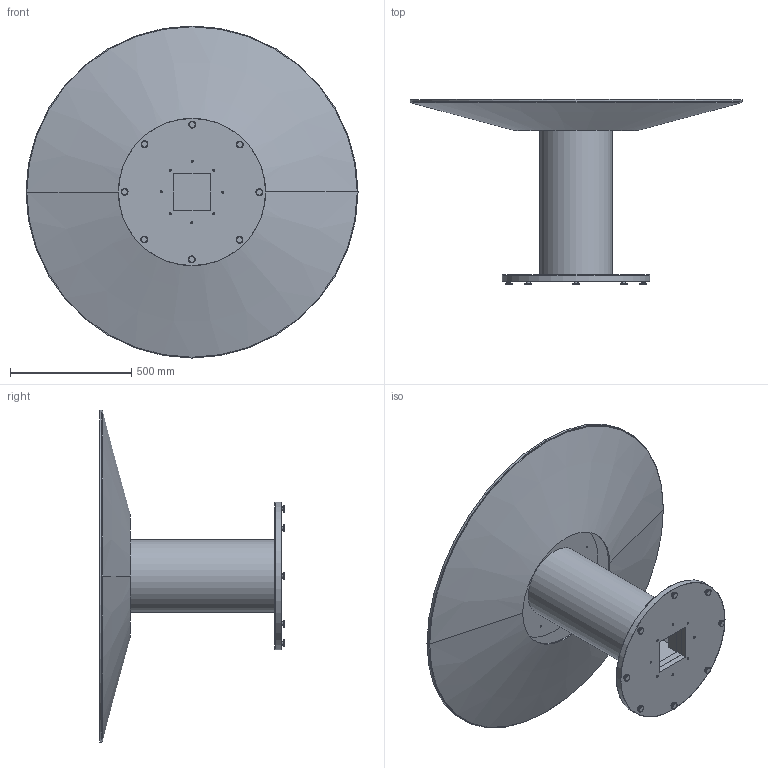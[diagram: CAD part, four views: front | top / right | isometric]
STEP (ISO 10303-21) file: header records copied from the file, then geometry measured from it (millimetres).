
FILE_DESCRIPTION(/* description */ ('','CAx-IF Rec.Pracs.---Representation and Presentation of Product Manufacturing Information (PMI)---4.0---2014-10-13'),/* implementation_level */ '2;1');
FILE_NAME(/* name */ 'AERO^TA1.stp',/* time_stamp */ '2024-12-05T17:11:36-05:00',/* author */ ('mbowman'),/* organization */ ('WESTERN OFFICE INTERIORS'),/* preprocessor_version */ 'ST-DEVELOPER v19.2',/* originating_system */ 'Autodesk Inventor 2023',/* authorisation */ '');
FILE_SCHEMA (('AP242_MANAGED_MODEL_BASED_3D_ENGINEERING_MIM_LF { 1 0 10303 442 1 1 4 }'));
Length unit declared in the file: inch
Products named in the file (17): AERO^TABLE 1_ATR-5454^2940801; AERO^TABLE 1_ATR-6060^TOP PNL06; AERO^TABLE 1_APRON04; AERO^TABLE 1_ATR1-4807; AERO^TABLE 1_ATR1-48^BASE TUBE12; AERO^TABLE 1_ATR1-48^FOOT PNL15; T-NUT 1-4 (MM322); H-COD-GLIDE2; AERO^TABLE 1_ATR1-48^BASE TOP BTM11; AERO^TABLE 1_ATR1-28^BASE STEEL SHROUD21; AERO^TABLE 1_AT0D-12^SUBTOP PNL19; AERO^TABLE 1_AT0D-12^INNER SIDE PNL18; AERO^TABLE 1_AT0D-12^INNER BACK PNL16; AERO^TABLE 1_AT0D-12^INNER FRNT PNL17; AERO^TABLE 1_AT0D-12^TOP DOOR BLOCK20; AERO^TABLE 1_AT0D-12^BTM DOOR BLOCK13; AERO^TABLE 1_AT0D-12^1 X 1 CLEAT BLK10
Assembly tree (40 placements, depth 3):
  AERO^TABLE 1_ATR-5454^2940801
    AERO^TABLE 1_ATR-6060^TOP PNL06
    AERO^TABLE 1_APRON04  x2
    AERO^TABLE 1_ATR1-4807
      AERO^TABLE 1_ATR1-48^BASE TUBE12
      AERO^TABLE 1_ATR1-48^FOOT PNL15
      T-NUT 1-4 (MM322)  x8
      H-COD-GLIDE2  x8
      AERO^TABLE 1_ATR1-48^BASE TOP BTM11  x2
      AERO^TABLE 1_ATR1-28^BASE STEEL SHROUD21
      AERO^TABLE 1_AT0D-12^SUBTOP PNL19
      AERO^TABLE 1_AT0D-12^INNER SIDE PNL18  x2
      AERO^TABLE 1_AT0D-12^INNER BACK PNL16
      AERO^TABLE 1_AT0D-12^INNER FRNT PNL17
      AERO^TABLE 1_AT0D-12^TOP DOOR BLOCK20  x2
      AERO^TABLE 1_AT0D-12^BTM DOOR BLOCK13  x2
      AERO^TABLE 1_AT0D-12^1 X 1 CLEAT BLK10  x6
Bounding box: 1371.6 x 763.81 x 1371.6 mm (x, y, z)
Volume: 76335050.1 mm3; surface area: 9833284.5 mm2
Topology: 40 solids, 40 shells, 324 faces, 637 edges, 419 vertices
Faces by surface type: plane 188, cylinder 98, cone 21, torus 17
Full cylindrical faces by diameter (mm): 4.496 x8, 4.978 x8, 6.35 x16, 7.874 x8, 7.938 x8, 9.525 x8, 12.7 x8, 19.05 x8, 28.575 x8, 288.925 x3, 301.625 x1, 508 x1, 607.568 x2, 609.6 x1, 1371.6 x1
Entity records: 6858 total; most frequent: CARTESIAN_POINT 1243, DIRECTION 1110, ORIENTED_EDGE 670, AXIS2_PLACEMENT_3D 450, EDGE_CURVE 335, STYLED_ITEM 308, EDGE_LOOP 230, VERTEX_POINT 223
